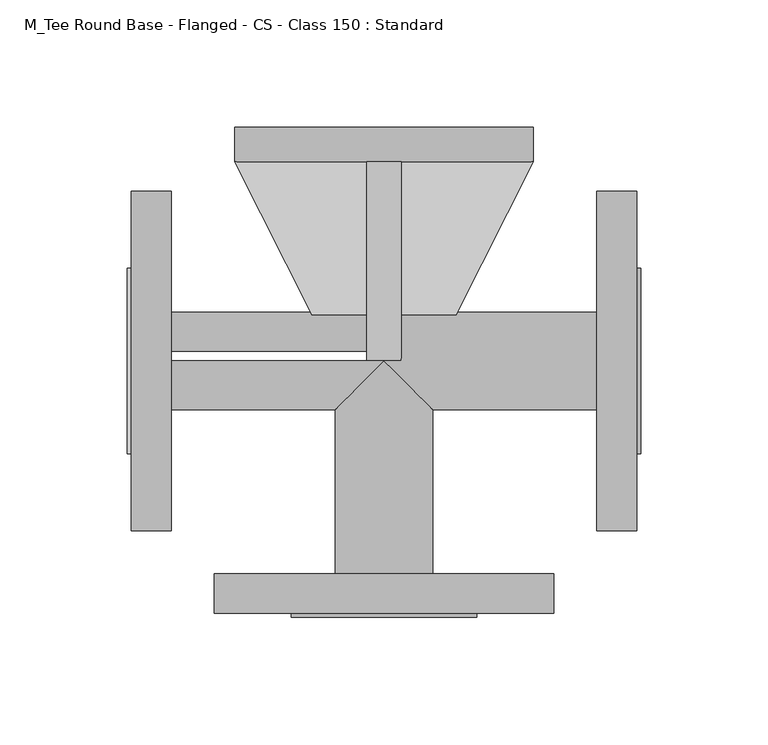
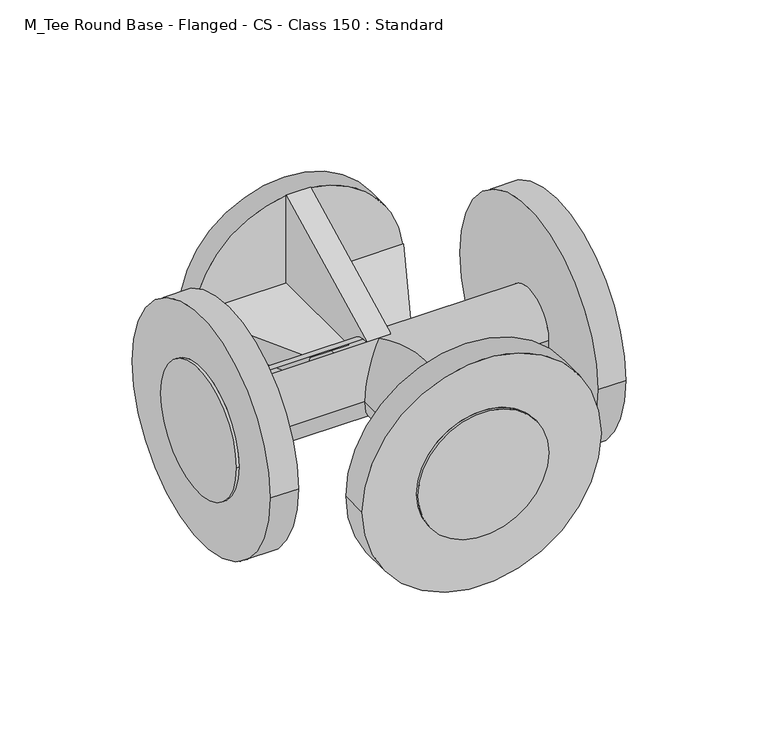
"""IFC4 building model written with IfcOpenShell, lengths in millimetres: pipe fitting geometry, M_Tee Round Base - Flanged - CS - Class 150 : Standard."""

from ifc_helpers import new_model, si_unit, frame, origin, place, context, project, spatial, circle_curve, ellipse_curve, source, transform, mapped, element, save
from ifc_brep_helpers import plane_surface, cylinder_surface, advanced_brep


def m_tee_round_base_flanged_cs_class_150_standard_7e5987a1(model_context):
    return source(origin(), model_context, "Body", "AdvancedBrep", [
        advanced_brep(
        [(83.484375, -19.1238281, 0.0), (83.484375, 19.1238281, 0.0), (28.7970352, 19.1238281, 0.0), (28.1697363, 17.8836649, 6.7746094), (6.7746094, 17.8836649, 6.7746094), (6.7746094, 0.0, 19.1238281), (0.0, 0.0, 19.1238281), (19.1238281, -19.1238281, 0.0), (0.0, 0.0, -19.1238281), (6.7746094, 0.0, -19.1238281), (6.7746094, 17.8836649, -6.7746094), (28.1697363, 17.8836649, -6.7746094), (-83.484375, 19.1238281, 0.0), (-83.484375, -19.1238281, 0.0), (-19.1238281, -19.1238281, 0.0), (-6.7746094, 0.0, 19.1238281), (-6.7746094, 17.8836649, 6.7746094), (-28.1697363, 17.8836649, 6.7746094), (-28.7970352, 19.1238281, 0.0), (-28.1697363, 17.8836649, -6.7746094), (-6.7746094, 17.8836649, -6.7746094), (-6.7746094, 0.0, -19.1238281), (-99.1210937, -66.6433594, 0.0), (-99.1210937, 66.6433594, 0.0), (-99.1210937, 36.4214844, 0.0), (-99.1210937, -36.4214844, 0.0), (-83.484375, -66.6433594, 0.0), (-83.484375, 66.6433594, 0.0), (83.484375, -66.6433594, 0.0), (83.484375, 66.6433594, 0.0), (99.1210937, -66.6433594, 0.0), (99.1210937, 66.6433594, 0.0), (99.1210937, -36.4214844, 0.0), (99.1210937, 36.4214844, 0.0), (-100.7085937, 36.4214844, 0.0), (-100.7085937, -36.4214844, 0.0), (100.7085938, -36.4214844, 0.0), (100.7085938, 36.4214844, 0.0), (19.1238281, -83.484375, 0.0), (-19.1238281, -83.484375, 0.0), (-66.6433594, -83.484375, 0.0), (66.6433594, -83.484375, 0.0), (-66.6433594, -99.1210938, 0.0), (66.6433594, -99.1210938, 0.0), (-36.4214844, -99.1210938, 0.0), (36.4214844, -99.1210938, 0.0), (-36.4214844, -100.7085938, 0.0), (36.4214844, -100.7085938, 0.0), (-58.6097656, 78.0632812, 6.7746094), (-6.7746094, 78.0632812, 6.7746094), (-58.2169159, 78.0632812, 6.7746094), (58.6097656, 78.0632812, 6.7746094), (58.2169159, 78.0632812, 6.7746094), (6.7746094, 78.0632812, 6.7746094), (58.6097656, 78.0632812, -6.7746094), (6.7746094, 78.0632812, -6.7746094), (58.2169159, 78.0632812, -6.7746094), (-58.6097656, 78.0632812, -6.7746094), (-58.2169159, 78.0632812, -6.7746094), (-6.7746094, 78.0632812, -6.7746094), (-58.6097656, 78.0632812, 0.0), (58.6097656, 78.0632812, 0.0), (6.7746094, 78.0632812, -58.6097656), (0.0, 78.0632812, -58.6097656), (6.7746094, 78.0632812, -58.2169159), (-6.7746094, 78.0632812, -58.6097656), (-6.7746094, 78.0632812, -58.2169159), (6.7746094, 78.0632812, 58.6097656), (6.7746094, 78.0632812, 58.2169159), (0.0, 78.0632812, 58.6097656), (-6.7746094, 78.0632812, 58.2169159), (-6.7746094, 78.0632812, 58.6097656), (-58.6097656, 91.6125, 0.0), (58.6097656, 91.6125, 0.0)],
        [
            (0, 1, circle_curve(frame((83.484375, 0.0, 0.0), z_axis=(-1.0, 0.0, 0.0), x_axis=(0.0, 1.0, 0.0)), 19.1238281)),
            (1, 2),
            (2, 3, ellipse_curve(frame((19.1238281, 0.0, 0.0), z_axis=(0.8923403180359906, -0.45136322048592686, 0.0), x_axis=(-0.4513632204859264, -0.8923403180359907, 0.0)), 21.4310928, 19.1238281)),
            (3, 4),
            (4, 5, circle_curve(frame((6.7746094, 0.0, 0.0), z_axis=(1.0, 0.0, 0.0), x_axis=(0.0, 1.0, 0.0)), 19.1238281)),
            (5, 6),
            (6, 7, ellipse_curve(frame((0.0, 0.0, 0.0), z_axis=(0.7071067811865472, 0.7071067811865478, 0.0), x_axis=(-0.7071067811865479, 0.7071067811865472, 0.0)), 27.0451771, 19.1238281)),
            (7, 0),
            (1, 0, circle_curve(frame((83.484375, 0.0, 0.0), z_axis=(-1.0, 0.0, 0.0), x_axis=(0.0, 1.0, 0.0)), 19.1238281)),
            (7, 8, ellipse_curve(frame((0.0, 0.0, 0.0), z_axis=(0.7071067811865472, 0.7071067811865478, 0.0), x_axis=(-0.7071067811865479, 0.7071067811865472, 0.0)), 27.0451771, 19.1238281)),
            (8, 9),
            (9, 10, circle_curve(frame((6.7746094, 0.0, 0.0), z_axis=(1.0, 0.0, 0.0), x_axis=(0.0, 1.0, 0.0)), 19.1238281)),
            (10, 11),
            (11, 2, ellipse_curve(frame((19.1238281, 0.0, 0.0), z_axis=(0.8923403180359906, -0.45136322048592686, 0.0), x_axis=(-0.4513632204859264, -0.8923403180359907, 0.0)), 21.4310928, 19.1238281)),
            (12, 13, circle_curve(frame((-83.484375, 0.0, 0.0), z_axis=(1.0, 0.0, 0.0), x_axis=(0.0, 1.0, 0.0)), 19.1238281)),
            (13, 14),
            (14, 6, ellipse_curve(frame((0.0, 0.0, 0.0), z_axis=(-0.7071067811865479, 0.7071067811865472, 0.0), x_axis=(-0.707106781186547, -0.7071067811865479, 0.0)), 27.0451771, 19.1238281)),
            (6, 15),
            (15, 16, circle_curve(frame((-6.7746094, 0.0, 0.0), z_axis=(-1.0, 0.0, 0.0), x_axis=(0.0, 1.0, 0.0)), 19.1238281)),
            (16, 17),
            (17, 18, ellipse_curve(frame((-19.1238281, 0.0, 0.0), z_axis=(-0.8923403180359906, -0.4513632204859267, 0.0), x_axis=(-0.4513632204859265, 0.8923403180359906, 0.0)), 21.4310928, 19.1238281)),
            (18, 12),
            (13, 12, circle_curve(frame((-83.484375, 0.0, 0.0), z_axis=(1.0, 0.0, 0.0), x_axis=(0.0, 1.0, 0.0)), 19.1238281)),
            (18, 19, ellipse_curve(frame((-19.1238281, 0.0, 0.0), z_axis=(-0.8923403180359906, -0.4513632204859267, 0.0), x_axis=(-0.4513632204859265, 0.8923403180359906, 0.0)), 21.4310928, 19.1238281)),
            (19, 20),
            (20, 21, circle_curve(frame((-6.7746094, 0.0, 0.0), z_axis=(-1.0, 0.0, 0.0), x_axis=(0.0, 1.0, 0.0)), 19.1238281)),
            (21, 8),
            (8, 14, ellipse_curve(frame((0.0, 0.0, 0.0), z_axis=(-0.7071067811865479, 0.7071067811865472, 0.0), x_axis=(-0.707106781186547, -0.7071067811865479, 0.0)), 27.0451771, 19.1238281)),
            (22, 23, circle_curve(frame((-99.1210937, 0.0, 0.0), z_axis=(-1.0, 0.0, 0.0), x_axis=(0.0, 1.0, 0.0)), 66.6433594)),
            (23, 22, circle_curve(frame((-99.1210937, 0.0, 0.0), z_axis=(-1.0, 0.0, 0.0), x_axis=(0.0, 1.0, 0.0)), 66.6433594)),
            (24, 25, circle_curve(frame((-99.1210937, 0.0, 0.0), z_axis=(1.0, 0.0, 0.0), x_axis=(0.0, -1.0, 0.0)), 36.4214844)),
            (25, 24, circle_curve(frame((-99.1210937, 0.0, 0.0), z_axis=(1.0, 0.0, 0.0), x_axis=(0.0, -1.0, 0.0)), 36.4214844)),
            (26, 27, circle_curve(frame((-83.484375, 0.0, 0.0), z_axis=(1.0, 0.0, 0.0), x_axis=(0.0, 1.0, 0.0)), 66.6433594)),
            (27, 26, circle_curve(frame((-83.484375, 0.0, 0.0), z_axis=(1.0, 0.0, 0.0), x_axis=(0.0, 1.0, 0.0)), 66.6433594)),
            (22, 26),
            (27, 23),
            (28, 29, circle_curve(frame((83.484375, 0.0, 0.0), z_axis=(-1.0, 0.0, 0.0), x_axis=(0.0, 1.0, 0.0)), 66.6433594)),
            (29, 28, circle_curve(frame((83.484375, 0.0, 0.0), z_axis=(-1.0, 0.0, 0.0), x_axis=(0.0, 1.0, 0.0)), 66.6433594)),
            (30, 31, circle_curve(frame((99.1210937, 0.0, 0.0), z_axis=(1.0, 0.0, 0.0), x_axis=(0.0, 1.0, 0.0)), 66.6433594)),
            (31, 30, circle_curve(frame((99.1210937, 0.0, 0.0), z_axis=(1.0, 0.0, 0.0), x_axis=(0.0, 1.0, 0.0)), 66.6433594)),
            (32, 33, circle_curve(frame((99.1210937, 0.0, 0.0), z_axis=(-1.0, 0.0, 0.0), x_axis=(0.0, 1.0, 0.0)), 36.4214844)),
            (33, 32, circle_curve(frame((99.1210937, 0.0, 0.0), z_axis=(-1.0, 0.0, 0.0), x_axis=(0.0, 1.0, 0.0)), 36.4214844)),
            (28, 30),
            (31, 29),
            (34, 35, circle_curve(frame((-100.7085937, 0.0, 0.0), z_axis=(-1.0, 0.0, 0.0), x_axis=(0.0, -1.0, 0.0)), 36.4214844)),
            (35, 34, circle_curve(frame((-100.7085937, 0.0, 0.0), z_axis=(-1.0, 0.0, 0.0), x_axis=(0.0, -1.0, 0.0)), 36.4214844)),
            (35, 25),
            (24, 34),
            (36, 37, circle_curve(frame((100.7085938, 0.0, 0.0), z_axis=(1.0, 0.0, 0.0), x_axis=(0.0, 1.0, 0.0)), 36.4214844)),
            (37, 36, circle_curve(frame((100.7085938, 0.0, 0.0), z_axis=(1.0, 0.0, 0.0), x_axis=(0.0, 1.0, 0.0)), 36.4214844)),
            (37, 33),
            (32, 36),
            (38, 7),
            (14, 39),
            (39, 38, circle_curve(frame((0.0, -83.484375, 0.0), z_axis=(0.0, 1.0, 0.0), x_axis=(1.0, 0.0, 0.0)), 19.1238281)),
            (38, 39, circle_curve(frame((0.0, -83.484375, 0.0), z_axis=(0.0, 1.0, 0.0), x_axis=(1.0, 0.0, 0.0)), 19.1238281)),
            (40, 41, circle_curve(frame((0.0, -83.484375, 0.0), z_axis=(0.0, 1.0, 0.0), x_axis=(1.0, 0.0, 0.0)), 66.6433594)),
            (41, 40, circle_curve(frame((0.0, -83.484375, 0.0), z_axis=(0.0, 1.0, 0.0), x_axis=(1.0, 0.0, 0.0)), 66.6433594)),
            (42, 43, circle_curve(frame((0.0, -99.1210938, 0.0), z_axis=(0.0, -1.0, 0.0), x_axis=(1.0, 0.0, 0.0)), 66.6433594)),
            (43, 42, circle_curve(frame((0.0, -99.1210938, 0.0), z_axis=(0.0, -1.0, 0.0), x_axis=(1.0, 0.0, 0.0)), 66.6433594)),
            (44, 45, circle_curve(frame((0.0, -99.1210938, 0.0), z_axis=(0.0, 1.0, 0.0), x_axis=(1.0, 0.0, 0.0)), 36.4214844)),
            (45, 44, circle_curve(frame((0.0, -99.1210938, 0.0), z_axis=(0.0, 1.0, 0.0), x_axis=(1.0, 0.0, 0.0)), 36.4214844)),
            (40, 42),
            (43, 41),
            (46, 47, circle_curve(frame((0.0, -100.7085938, 0.0), z_axis=(0.0, -1.0, 0.0), x_axis=(1.0, 0.0, 0.0)), 36.4214844)),
            (47, 46, circle_curve(frame((0.0, -100.7085938, 0.0), z_axis=(0.0, -1.0, 0.0), x_axis=(1.0, 0.0, 0.0)), 36.4214844)),
            (47, 45),
            (44, 46),
            (48, 17),
            (16, 49),
            (49, 50),
            (50, 48),
            (3, 51),
            (51, 52),
            (52, 53),
            (53, 4),
            (54, 11),
            (10, 55),
            (55, 56),
            (56, 54),
            (19, 57),
            (57, 58),
            (58, 59),
            (59, 20),
            (50, 60, circle_curve(frame((0.0, 78.0632812, 0.0), z_axis=(0.0, -1.0, 0.0), x_axis=(1.0, 0.0, 0.0)), 58.6097656)),
            (60, 48),
            (51, 61),
            (61, 52, circle_curve(frame((0.0, 78.0632812, 0.0), z_axis=(0.0, -1.0, 0.0), x_axis=(1.0, 0.0, 0.0)), 58.6097656)),
            (56, 61, circle_curve(frame((0.0, 78.0632812, 0.0), z_axis=(0.0, -1.0, 0.0), x_axis=(1.0, 0.0, 0.0)), 58.6097656)),
            (61, 54),
            (57, 60),
            (60, 58, circle_curve(frame((0.0, 78.0632812, 0.0), z_axis=(0.0, -1.0, 0.0), x_axis=(1.0, 0.0, 0.0)), 58.6097656)),
            (62, 63),
            (63, 64, circle_curve(frame((0.0, 78.0632812, 0.0), z_axis=(0.0, -1.0, 0.0), x_axis=(1.0, 0.0, 0.0)), 58.6097656)),
            (64, 62),
            (63, 65),
            (65, 66),
            (66, 63, circle_curve(frame((0.0, 78.0632812, 0.0), z_axis=(0.0, -1.0, 0.0), x_axis=(1.0, 0.0, 0.0)), 58.6097656)),
            (67, 68),
            (68, 69, circle_curve(frame((0.0, 78.0632812, 0.0), z_axis=(0.0, -1.0, 0.0), x_axis=(1.0, 0.0, 0.0)), 58.6097656)),
            (69, 67),
            (70, 71),
            (71, 69),
            (69, 70, circle_curve(frame((0.0, 78.0632812, 0.0), z_axis=(0.0, -1.0, 0.0), x_axis=(1.0, 0.0, 0.0)), 58.6097656)),
            (67, 5),
            (53, 68),
            (9, 62),
            (64, 55),
            (65, 21),
            (59, 66),
            (15, 71),
            (70, 49),
            (72, 73, circle_curve(frame((0.0, 91.6125, 0.0), z_axis=(0.0, 1.0, 0.0), x_axis=(1.0, 0.0, 0.0)), 58.6097656)),
            (73, 72, circle_curve(frame((0.0, 91.6125, 0.0), z_axis=(0.0, 1.0, 0.0), x_axis=(1.0, 0.0, 0.0)), 58.6097656)),
            (52, 68, circle_curve(frame((0.0, 78.0632812, 0.0), z_axis=(0.0, -1.0, 0.0), x_axis=(1.0, 0.0, 0.0)), 58.6097656)),
            (64, 56, circle_curve(frame((0.0, 78.0632812, 0.0), z_axis=(0.0, -1.0, 0.0), x_axis=(1.0, 0.0, 0.0)), 58.6097656)),
            (58, 66, circle_curve(frame((0.0, 78.0632812, 0.0), z_axis=(0.0, -1.0, 0.0), x_axis=(1.0, 0.0, 0.0)), 58.6097656)),
            (70, 50, circle_curve(frame((0.0, 78.0632812, 0.0), z_axis=(0.0, -1.0, 0.0), x_axis=(1.0, 0.0, 0.0)), 58.6097656)),
            (72, 60),
            (61, 73),
        ],
        [
            cylinder_surface(frame((0.0, 0.0, 0.0), z_axis=(-1.0, 0.0, 0.0), x_axis=(0.0, 1.0, 0.0)), 19.1238281),
            cylinder_surface(frame((-83.484375, 0.0, 0.0), z_axis=(-1.0, 0.0, 0.0), x_axis=(0.0, 1.0, 0.0)), 19.1238281),
            plane_surface(frame((-99.1210937, 0.0, 0.0), z_axis=(-1.0, 0.0, 0.0), x_axis=(0.0, 0.0, 1.0))),
            plane_surface(frame((-83.484375, 0.0, 0.0), z_axis=(1.0, 0.0, 0.0), x_axis=(0.0, 0.0, 1.0))),
            cylinder_surface(frame((-99.1210937, 0.0, 0.0), z_axis=(-1.0, 0.0, 0.0), x_axis=(0.0, 1.0, 0.0)), 66.6433594),
            plane_surface(frame((83.484375, 0.0, 0.0), z_axis=(-1.0, 0.0, 0.0), x_axis=(0.0, 0.0, 1.0))),
            plane_surface(frame((99.1210937, 0.0, 0.0), z_axis=(1.0, 0.0, 0.0), x_axis=(0.0, 0.0, 1.0))),
            cylinder_surface(frame((83.484375, 0.0, 0.0), z_axis=(-1.0, 0.0, 0.0), x_axis=(0.0, 1.0, 0.0)), 66.6433594),
            plane_surface(frame((-100.7085937, 0.0, 0.0), z_axis=(-1.0, 0.0, 0.0), x_axis=(0.0, 0.0, 1.0))),
            cylinder_surface(frame((-99.1210937, 0.0, 0.0), z_axis=(1.0, 0.0, 0.0), x_axis=(0.0, -1.0, 0.0)), 36.4214844),
            plane_surface(frame((100.7085938, 0.0, 0.0), z_axis=(1.0, 0.0, 0.0), x_axis=(0.0, 0.0, 1.0))),
            cylinder_surface(frame((99.1210937, 0.0, 0.0), z_axis=(-1.0, 0.0, 0.0), x_axis=(0.0, 1.0, 0.0)), 36.4214844),
            cylinder_surface(frame((0.0, 0.0, 0.0), z_axis=(0.0, 1.0, 0.0), x_axis=(1.0, 0.0, 0.0)), 19.1238281),
            plane_surface(frame((0.0, -83.484375, 0.0), z_axis=(0.0, 1.0, 0.0), x_axis=(0.0, 0.0, 1.0))),
            plane_surface(frame((0.0, -99.1210938, 0.0), z_axis=(0.0, -1.0, 0.0), x_axis=(0.0, 0.0, 1.0))),
            cylinder_surface(frame((0.0, -83.484375, 0.0), z_axis=(0.0, 1.0, 0.0), x_axis=(1.0, 0.0, 0.0)), 66.6433594),
            plane_surface(frame((0.0, -100.7085938, 0.0), z_axis=(0.0, -1.0, 0.0), x_axis=(0.0, 0.0, 1.0))),
            cylinder_surface(frame((0.0, -99.1210938, 0.0), z_axis=(0.0, 1.0, 0.0), x_axis=(1.0, 0.0, 0.0)), 36.4214844),
            plane_surface(frame((-58.6097656, 78.0632812, 6.7746094), z_axis=(0.0, 0.0, 1.0), x_axis=(-1.0, 0.0, 0.0))),
            plane_surface(frame((-58.6097656, 78.0632812, -6.7746094), z_axis=(0.0, 0.0, -1.0), x_axis=(1.0, 0.0, 0.0))),
            plane_surface(frame((58.6097656, 78.0632812, 6.7746094), z_axis=(0.0, 1.0, 0.0), x_axis=(0.0, 0.0, -1.0))),
            plane_surface(frame((-58.6097656, 78.0632812, 6.7746094), z_axis=(-0.8923403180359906, -0.4513632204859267, 0.0), x_axis=(0.0, 0.0, -1.0))),
            plane_surface(frame((19.1238281, 0.0, 6.7746094), z_axis=(0.8923403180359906, -0.45136322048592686, 0.0), x_axis=(0.0, 0.0, -1.0))),
            plane_surface(frame((6.7746094, 78.0632812, 58.6097656), z_axis=(1.0, 0.0, 0.0), x_axis=(0.0, 0.0, 1.0))),
            plane_surface(frame((-6.7746094, 78.0632812, 58.6097656), z_axis=(-1.0, 0.0, 0.0), x_axis=(0.0, 0.0, -1.0))),
            plane_surface(frame((6.7746094, 78.0632812, 58.6097656), z_axis=(0.0, -0.45136322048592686, 0.8923403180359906), x_axis=(-1.0, 0.0, 0.0))),
            plane_surface(frame((6.7746094, 0.0, -19.1238281), z_axis=(0.0, -0.45136322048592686, -0.8923403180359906), x_axis=(-1.0, 0.0, 0.0))),
            plane_surface(frame((0.0, 91.6125, 0.0), z_axis=(0.0, 1.0, 0.0), x_axis=(0.0, 0.0, 1.0))),
            plane_surface(frame((0.0, 78.0632812, 0.0), z_axis=(0.0, -1.0, 0.0), x_axis=(0.0, 0.0, 1.0))),
            cylinder_surface(frame((0.0, 91.6125, 0.0), z_axis=(0.0, 1.0, 0.0), x_axis=(1.0, 0.0, 0.0)), 58.6097656),
        ],
        [
            (0, [[1, 2, 3, 4, 5, 6, 7, 8]]),
            (0, [[9, -8, 10, 11, 12, 13, 14, -2]]),
            (1, [[15, 16, 17, 18, 19, 20, 21, 22]]),
            (1, [[23, -22, 24, 25, 26, 27, 28, -16]]),
            (2, [[29, 30], [31, 32]]),
            (3, [[33, 34], [-15, -23]]),
            (4, [[-29, 35, -34, 36]]),
            (4, [[-30, -36, -33, -35]]),
            (5, [[37, 38], [-1, -9]]),
            (6, [[39, 40], [41, 42]]),
            (7, [[-37, 43, -40, 44]]),
            (7, [[-38, -44, -39, -43]]),
            (8, [[45, 46]]),
            (9, [[-46, 47, -31, 48]]),
            (9, [[-45, -48, -32, -47]]),
            (10, [[49, 50]]),
            (11, [[-50, 51, -41, 52]]),
            (11, [[-49, -52, -42, -51]]),
            (12, [[53, -7, -17, 54, 55]]),
            (12, [[-53, 56, -54, -28, -10]]),
            (13, [[57, 58], [-55, -56]]),
            (14, [[59, 60], [61, 62]]),
            (15, [[-57, 63, -60, 64]]),
            (15, [[-58, -64, -59, -63]]),
            (16, [[65, 66]]),
            (17, [[-66, 67, -61, 68]]),
            (17, [[-65, -68, -62, -67]]),
            (18, [[69, -20, 70, 71, 72]]),
            (18, [[73, 74, 75, 76, -4]]),
            (19, [[77, -13, 78, 79, 80]]),
            (19, [[81, 82, 83, 84, -25]]),
            (20, [[-72, 85, 86]]),
            (20, [[-74, 87, 88]]),
            (20, [[-80, 89, 90]]),
            (20, [[-82, 91, 92]]),
            (20, [[93, 94, 95]]),
            (20, [[96, 97, 98]]),
            (20, [[99, 100, 101]]),
            (20, [[102, 103, 104]]),
            (21, [[-69, -86, -91, -81, -24, -21]]),
            (22, [[-73, -3, -14, -77, -90, -87]]),
            (23, [[105, -5, -76, 106, -99]]),
            (23, [[107, -95, 108, -78, -12]]),
            (24, [[109, -26, -84, 110, -97]]),
            (24, [[111, -102, 112, -70, -19]]),
            (25, [[-105, -101, -103, -111, -18, -6]]),
            (26, [[-107, -11, -27, -109, -96, -93]]),
            (27, [[113, 114]]),
            (28, [[115, -106, -75]]),
            (28, [[116, -79, -108]]),
            (28, [[117, -110, -83]]),
            (28, [[118, -71, -112]]),
            (29, [[-113, 119, -85, -118, -104, -100, -115, -88, 120]]),
            (29, [[-114, -120, -89, -116, -94, -98, -117, -92, -119]]),
        ],
    ),
    ])


if __name__ == "__main__":
    model = new_model("IFC4")
    model_context = context("Model", 3, world=origin())
    ifc_project = project(units=[si_unit("LENGTHUNIT", "METRE", prefix="MILLI")], contexts=[model_context])
    site = spatial("IfcSite", under=ifc_project)
    building = spatial("IfcBuilding", under=site)
    placement = place(None, origin())
    m_tee_round_base_flanged_cs_class_150_standard_shape = m_tee_round_base_flanged_cs_class_150_standard_7e5987a1(model_context)
    element("IfcPipeFitting", 1, ObjectType="M_Tee Round Base - Flanged - CS - Class 150 : Standard", at=placement, inside=building, context=model_context, shape_type="MappedRepresentation", body=[
        mapped(m_tee_round_base_flanged_cs_class_150_standard_shape, transform((0.0, 0.0, 0.0), x_axis=(1.0, 0.0, 0.0), y_axis=(0.0, 1.0, 0.0), z_axis=(0.0, 0.0, 1.0))),
    ])
    save(model, "model.ifc")
